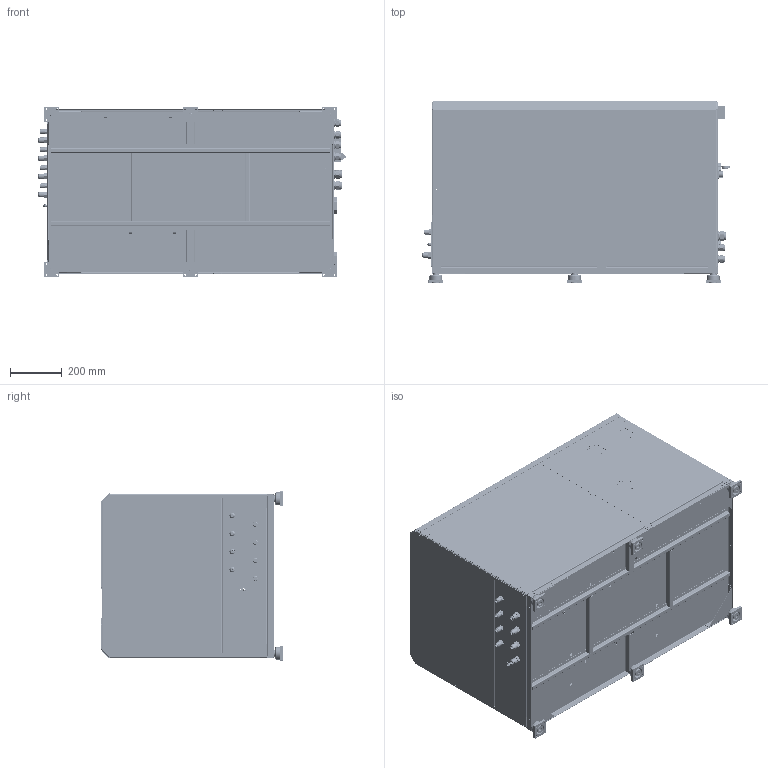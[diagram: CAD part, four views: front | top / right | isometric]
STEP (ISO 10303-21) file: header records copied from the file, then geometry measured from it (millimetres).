
FILE_DESCRIPTION(/* description */ ('VRT60X2-2V - 230VAC'),/* implementation_level */ '2;1');
FILE_NAME(/* name */ 'VRT-60-X2-001.stp',/* time_stamp */ '2025-01-24T12:17:16+01:00',/* author */ ('CAD 1'),/* organization */ (''),/* preprocessor_version */ 'ST-DEVELOPER v20',/* originating_system */ 'Autodesk Inventor 2024',/* authorisation */ 'D.Z.');
FILE_SCHEMA (('AUTOMOTIVE_DESIGN { 1 0 10303 214 3 1 1 }'));
Products named in the file (61): VRT-60-X2-001; VRT-000000211; VRT-000000231; VRT-000000231_01; VRT-000000231_02; VRT-000000231_03; VRT-000000231_04; VRT-000000231_05; VRT-000000232; VRT-000000233; VRT-000000234; VRT-000000236; VRT-000000237; VRT-000000238; VRT-000000240; VRT-000000241; VRT-000000242; VRT-000000243; VRT-000000244; VRT-000000245; VRT-000000310; VRT-000000432; VRT-05-000008; VRT-000000295; VRT-000000106; VRT-000000282; VRT-000000282_02; RAI01-0000004; VRT-000000283; VRT-000000283_01; RAI01-0000029; ELT01-0000013; ELT01-0000013_02; ELT01-0000013_01; ELT01-0000013_01_01; ELT01-0000013_01_02; VRT-000000058; RAI01-0000034; CMC02-0000002; RAI01-0000035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
Assembly tree (94 placements, depth 5):
  VRT-60-X2-001
    VRT-000000211
    VRT-000000231
      VRT-000000231_01
      VRT-000000231_02  x2
      VRT-000000231_03  x2
      VRT-000000231_04
      VRT-000000231_05
    VRT-000000232  x4
    VRT-000000233  x2
    VRT-000000234
    VRT-000000236
    VRT-000000237
    VRT-000000238
    VRT-000000240
    VRT-000000241
    VRT-000000242
    VRT-000000243
    VRT-000000244
    VRT-000000245
    VRT-000000310
    VRT-000000432  x2
    VRT-05-000008
      VRT-000000295
        VRT-000000106
      VRT-000000282
        VRT-000000282_02
          RAI01-0000004  x4
      VRT-000000283
        VRT-000000283_01
          RAI01-0000029  x4
    ELT01-0000013  x2
      ELT01-0000013_02
      ELT01-0000013_01
        ELT01-0000013_01_01
        ELT01-0000013_01_02
    ELT01-0000010  x4
      ELT01-0000010_02
      ELT01-0000010_01
        ELT01-0000010_01_01
        ELT01-0000010_01_02
    VRT-000000058
      RAI01-0000034
      CMC02-0000002
      RAI01-0000035
      ELT01-0000059
      ELT01-0000054
      MIN01-0000010  x4
      MIN01-0000052  x4
    H2O-000000002
    VRT-03-000004
      VRT-000000235
      ELT01-0000006
      ELT01-0000010  x4
        ELT01-0000010_02
        ELT01-0000010_01
          ELT01-0000010_01_01
          ELT01-0000010_01_02
    PIE01-0000001  x6
      PIE01-0000001_01
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Bounding box: 1190.35 x 703 x 658.65 mm (x, y, z)
Volume: 7958240.8 mm3; surface area: 10079774.9 mm2
Topology: 131 solids, 132 shells, 5066 faces, 12748 edges, 8160 vertices
Faces by surface type: plane 2735, cylinder 1532, bspline 547, cone 187, torus 65
Full cylindrical faces by diameter (mm): 2.459 x4, 3 x4, 3.2 x14, 3.242 x169, 4.134 x8, 4.2 x4, 4.3 x1, 4.5 x21, 4.8 x84, 5 x15, 5.3 x8, 5.5 x16, 6 x3, 6.3 x1, 6.5 x25, 6.647 x10, 6.8 x6, 7.6 x1, 8 x6, 8.2 x1, 8.5 x8, 8.8 x2, 9 x8, 9.35 x1, 10 x9, 11 x1, 12 x5, 12.2 x4, 13 x6, 13.5 x6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
Entity records: 101467 total; most frequent: CARTESIAN_POINT 24384, ORIENTED_EDGE 15394, DIRECTION 15104, EDGE_CURVE 7697, LINE 5132, VECTOR 5132, AXIS2_PLACEMENT_3D 4986, VERTEX_POINT 4891
